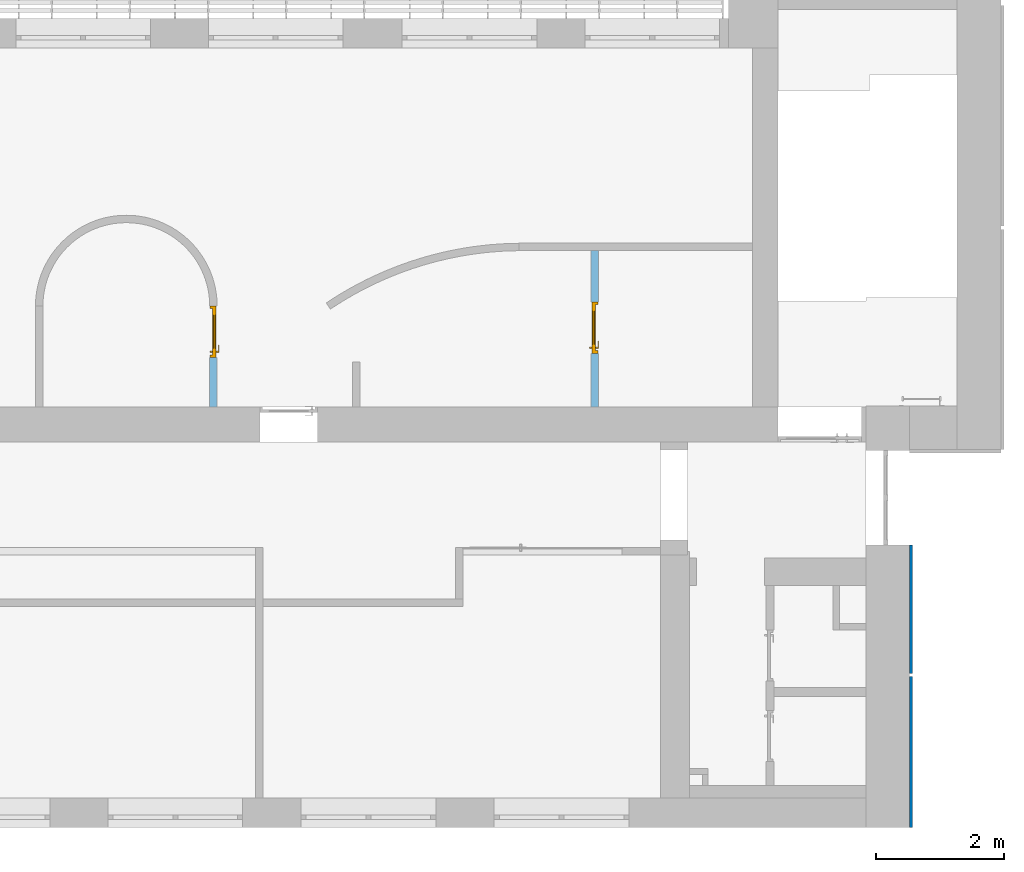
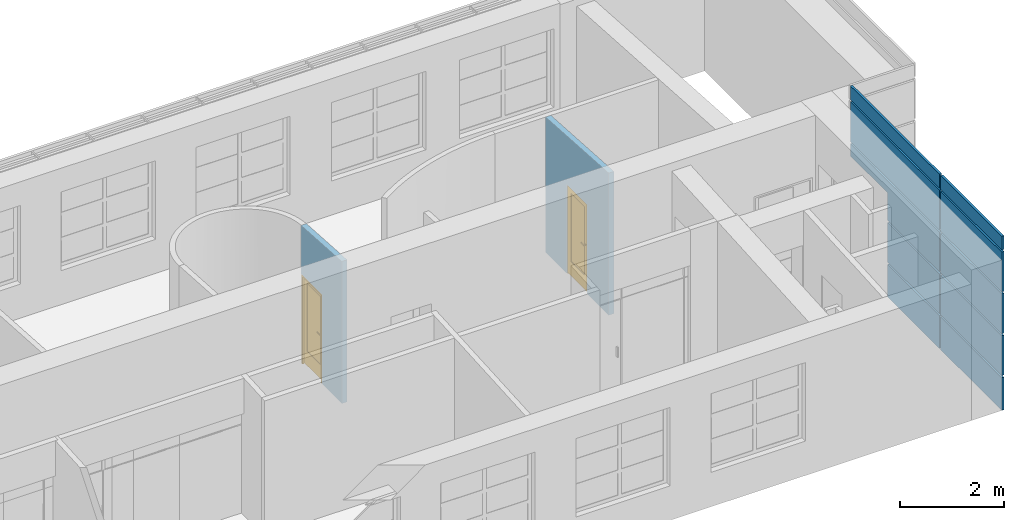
# One storey, part 44 of 46: 2 doors, 1 wall, 2 openings, plus 2 elements that do not belong to this part.
"""IFC2X3 building model written with IfcOpenShell, lengths in millimetres."""

from ifc_helpers import new_model, entity, si_unit, converted_unit, derived_unit, direction, frame, frame_2d, origin, place, context, subcontext, project, spatial, polyline, rectangle, extrude, clip, bounded_halfspace, faceted_brep, source, transform, mapped, material, material_list, layer, layer_set, layer_usage, type_object, type_shapes, element, fill, save


model = new_model("IFC2X3")

# Units and contexts
model_context = context("Model", 3, precision=0.01, world=origin(), true_north=direction((6.12303176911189e-17, 1.0)))
body_context = subcontext(model_context, "Body", "Model", "MODEL_VIEW")
ifc_project = project(units=[si_unit("LENGTHUNIT", "METRE", prefix="MILLI"), si_unit("AREAUNIT", "SQUARE_METRE"), si_unit("VOLUMEUNIT", "CUBIC_METRE"), converted_unit("PLANEANGLEUNIT", "DEGREE", entity("IfcRatioMeasure", 0.0174532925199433), si_unit("PLANEANGLEUNIT", "RADIAN"), dimensions=[0, 0, 0, 0, 0, 0, 0]), si_unit("MASSUNIT", "GRAM", prefix="KILO"), derived_unit("MASSDENSITYUNIT", [(si_unit("MASSUNIT", "GRAM", prefix="KILO"), 1), (si_unit("LENGTHUNIT", "METRE"), -3)]), si_unit("TIMEUNIT", "SECOND"), si_unit("FREQUENCYUNIT", "HERTZ"), si_unit("THERMODYNAMICTEMPERATUREUNIT", "DEGREE_CELSIUS"), derived_unit("THERMALTRANSMITTANCEUNIT", [(si_unit("MASSUNIT", "GRAM", prefix="KILO"), 1), (si_unit("THERMODYNAMICTEMPERATUREUNIT", "KELVIN"), -1), (si_unit("TIMEUNIT", "SECOND"), -3)]), derived_unit("VOLUMETRICFLOWRATEUNIT", [(si_unit("LENGTHUNIT", "METRE"), 3), (si_unit("TIMEUNIT", "SECOND"), -1)]), si_unit("ELECTRICCURRENTUNIT", "AMPERE"), si_unit("ELECTRICVOLTAGEUNIT", "VOLT"), si_unit("POWERUNIT", "WATT"), si_unit("FORCEUNIT", "NEWTON", prefix="KILO"), si_unit("ILLUMINANCEUNIT", "LUX"), si_unit("LUMINOUSFLUXUNIT", "LUMEN"), si_unit("LUMINOUSINTENSITYUNIT", "CANDELA"), derived_unit("USERDEFINED", [(si_unit("MASSUNIT", "GRAM", prefix="KILO"), -1), (si_unit("LENGTHUNIT", "METRE"), -2), (si_unit("TIMEUNIT", "SECOND"), 3), (si_unit("LUMINOUSFLUXUNIT", "LUMEN"), 1)]), derived_unit("LINEARVELOCITYUNIT", [(si_unit("LENGTHUNIT", "METRE"), 1), (si_unit("TIMEUNIT", "SECOND"), -1)]), si_unit("PRESSUREUNIT", "PASCAL"), derived_unit("USERDEFINED", [(si_unit("LENGTHUNIT", "METRE"), -2), (si_unit("MASSUNIT", "GRAM", prefix="KILO"), 1), (si_unit("TIMEUNIT", "SECOND"), -2)])], contexts=[model_context])

# Site, building, storey
site_placement = place(None, frame((-151.875543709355, 2715.0, 0.0)))
site = spatial("IfcSite", under=ifc_project, at=site_placement, Name="Surface", CompositionType="ELEMENT")
building_placement = place(site_placement, origin())
building = spatial("IfcBuilding", under=site, at=building_placement, CompositionType="ELEMENT")
storey_placement = place(building_placement, frame((0.0, 0.0, 10060.0)))
storey = spatial("IfcBuildingStorey", under=building, at=storey_placement, Name="4 korrus", CompositionType="ELEMENT", Elevation=10060.0000000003)

# Wall, opening, door
ifc_material_1 = material(Name="__Kips GN13_tava")
ifc_layer_1 = layer(ifc_material_1, 12.5)
ifc_layer_2 = layer(ifc_material_1, 12.5)
ifc_material_2 = material(Name="__Soojustus EPS")
ifc_layer_3 = layer(ifc_material_2, 66.0)
ifc_layer_4 = layer(ifc_material_1, 12.5)
ifc_layer_5 = layer(ifc_material_1, 12.5)
ifc_layer_set = layer_set([ifc_layer_1, ifc_layer_2, ifc_layer_3, ifc_layer_4, ifc_layer_5], Name="Basic Wall:SS-3_Kipssein tava ruumide vahel")
ifc_layer_usage_1 = layer_usage(ifc_layer_set, "AXIS2", "NEGATIVE", 58.0)
wall_type_1 = type_object("IfcWallType", Name="Basic Wall:SS-3_Kipssein tava ruumide vahel", PredefinedType="STANDARD", material=ifc_layer_set)
wall_1_placement = place(storey_placement, frame((29515.5931266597, 6560.0, 0.0), z_axis=(0.0, 0.0, 1.0), x_axis=(0.0, 1.0, 0.0)))
wall_1 = element("IfcWallStandardCase", 1, at=wall_1_placement, inside=storey, type_object=wall_type_1, material=ifc_layer_usage_1, Name="Basic Wall:SS-3_Kipssein tava ruumide vahel", ObjectType="Basic Wall:SS-3_Kipssein tava ruumide vahel", context=body_context, shape_type="Clipping", body=[
    clip(extrude(rectangle(XDim=2432.67041819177, YDim=116.0, at=frame_2d((1216.33520909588, 2.34479102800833e-13), x_axis=(-1.0, 0.0))), origin(), (0.0, 0.0, 1.0), 3345.80301513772), bounded_halfspace(frame((0.0, -58.0, 3345.80301513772), z_axis=(0.0638356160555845, 0.0, 0.997960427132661), x_axis=(0.0, 1.0, 0.0)), False, frame((0.0, -58.0, 3345.80301513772)), polyline([(0.0, 0.0), (2432.67041819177, 0.0), (2432.67041819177, 116.0), (0.0, 116.0), (0.0, 0.0)]))),
])
opening_1_placement = place(wall_1_placement, frame((833.456384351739, -58.0, 0.0)))
opening_1 = element("IfcOpeningElement", 2, at=opening_1_placement, cuts=wall_1, Name="Ühepoolsed:SU-01.:1", ObjectType="Opening", context=body_context, shape_type="SweptSolid", body=[
    extrude(rectangle(XDim=2099.99999999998, YDim=800.0, at=frame_2d((1049.99999999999, 400.0), x_axis=(1.0, 0.0))), frame((0.0, 0.0, 0.0), z_axis=(0.0, 1.0, 0.0), x_axis=(0.0, 0.0, 1.0)), (0.0, 0.0, 1.0), 116.0),
])
ifc_material_3 = material(Name="_Alumiiniumprofiil - must")
ifc_material_4 = material(Name="__Uks_hele tamm")
ifc_material_5 = material(Name="Glass")
ifc_material_list_1 = material_list([ifc_material_3, ifc_material_4, ifc_material_5])
ifc_material_list_2 = material_list([ifc_material_3, ifc_material_4, ifc_material_5])
door_style_1 = type_object("IfcDoorStyle", Name="SU-01.", ConstructionType="NOTDEFINED", OperationType="FOLDING_TO_LEFT", ParameterTakesPrecedence=False, Sizeable=False, material=ifc_material_list_2)
shared_shape_1 = source(origin(), body_context, "Body", "Brep", [
    faceted_brep([(100.0, 6.0, 1112.5), (100.0, 44.0, 1112.5), (75.0, 44.0, 1112.5), (75.0, 1.0, 1112.5), (195.0, 1.0, 1112.5), (195.0, 6.0, 1112.5), (100.0, 6.0, 1087.5), (195.0, 6.0, 1087.5), (195.0, 1.0, 1087.5), (75.0, 1.0, 1087.5), (75.0, 44.0, 1087.5), (100.0, 44.0, 1087.5)], [[[0, 1, 2, 3, 4, 5]], [[6, 7, 8, 9, 10, 11]], [[1, 0, 6, 11]], [[2, 1, 11, 10]], [[3, 2, 10, 9]], [[4, 3, 9, 8]], [[5, 4, 8, 7]], [[0, 5, 7, 6]]]),
    faceted_brep([(112.5, 44.0, 1137.5), (112.5, 46.0, 1137.5), (62.5000000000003, 46.0, 1137.5), (62.5000000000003, 44.0, 1137.5), (112.5, 44.0, 1017.5), (62.5000000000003, 44.0, 1017.5), (62.5000000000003, 46.0, 1017.5), (112.5, 46.0, 1017.5)], [[[0, 1, 2, 3]], [[4, 5, 6, 7]], [[1, 0, 4, 7]], [[2, 1, 7, 6]], [[3, 2, 6, 5]], [[0, 3, 5, 4]]]),
    faceted_brep([(100.0, 136.0, 1112.5), (195.0, 136.0, 1112.5), (195.0, 141.0, 1112.5), (75.0, 141.0, 1112.5), (75.0, 98.0, 1112.5), (100.0, 98.0, 1112.5), (100.0, 136.0, 1087.5), (100.0, 98.0, 1087.5), (75.0, 98.0, 1087.5), (75.0, 141.0, 1087.5), (195.0, 141.0, 1087.5), (195.0, 136.0, 1087.5)], [[[0, 1, 2, 3, 4, 5]], [[6, 7, 8, 9, 10, 11]], [[5, 7, 6, 0]], [[4, 8, 7, 5]], [[3, 9, 8, 4]], [[2, 10, 9, 3]], [[1, 11, 10, 2]], [[0, 6, 11, 1]]]),
    faceted_brep([(112.5, 98.0, 1137.5), (62.5000000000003, 98.0, 1137.5), (62.5000000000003, 96.0, 1137.5), (112.5, 96.0, 1137.5), (112.5, 98.0, 1017.5), (112.5, 96.0, 1017.5), (62.5000000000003, 96.0, 1017.5), (62.5000000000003, 98.0, 1017.5)], [[[0, 1, 2, 3]], [[4, 5, 6, 7]], [[3, 5, 4, 0]], [[2, 6, 5, 3]], [[1, 7, 6, 2]], [[0, 4, 7, 1]]]),
    faceted_brep([(800.0, 6.0, 0.0), (760.0, 6.0, 0.0), (760.0, 46.0, 0.0), (775.0, 46.0, 0.0), (775.0, 96.0, 0.0), (800.0, 96.0, 0.0), (800.0, 6.0, 2100.0), (0.0, 6.0, 2100.0), (0.0, 6.0, 0.0), (40.0, 6.0, 0.0), (40.0, 6.0, 2060.0), (760.0, 6.0, 2060.0), (760.0, 46.0, 2060.0), (40.0, 46.0, 2060.0), (40.0, 46.0, 0.0), (25.0, 46.0, 0.0), (25.0, 46.0, 2075.0), (775.0, 46.0, 2075.0), (775.0, 96.0, 2075.0), (25.0, 96.0, 2075.0), (25.0, 96.0, 0.0), (0.0, 96.0, 0.0), (0.0, 96.0, 2100.0), (800.0, 96.0, 2100.0)], [[[0, 1, 2, 3, 4, 5]], [[1, 0, 6, 7, 8, 9, 10, 11]], [[2, 1, 11, 12]], [[3, 2, 12, 13, 14, 15, 16, 17]], [[4, 3, 17, 18]], [[5, 4, 18, 19, 20, 21, 22, 23]], [[0, 5, 23, 6]], [[8, 7, 22, 21]], [[9, 8, 21, 20, 15, 14]], [[10, 9, 14, 13]], [[16, 15, 20, 19]], [[11, 10, 13, 12]], [[17, 16, 19, 18]], [[7, 6, 23, 22]]]),
    faceted_brep([(660.0, 61.0, 350.0), (660.0, 61.0, 1960.0), (140.0, 61.0, 1960.0), (140.0, 61.0, 350.0), (660.0, 81.0, 350.0), (140.0, 81.0, 350.0), (140.0, 81.0, 1960.0), (660.0, 81.0, 1960.0)], [[[0, 1, 2, 3]], [[4, 5, 6, 7]], [[1, 0, 4, 7]], [[2, 1, 7, 6]], [[3, 2, 6, 5]], [[0, 3, 5, 4]]]),
    faceted_brep([(775.0, 46.0, 20.0), (775.0, 46.0, 2075.0), (25.0, 46.0, 2075.0), (25.0, 46.0, 20.0), (140.0, 46.0, 350.0), (140.0, 46.0, 1960.0), (660.0, 46.0, 1960.0), (660.0, 46.0, 350.0), (775.0, 96.0, 20.0), (25.0, 96.0, 20.0), (25.0, 96.0, 2075.0), (775.0, 96.0, 2075.0), (140.0, 96.0, 1960.0), (140.0, 96.0, 350.0), (660.0, 96.0, 350.0), (660.0, 96.0, 1960.0)], [[[0, 1, 2, 3], [4, 5, 6, 7]], [[8, 9, 10, 11], [12, 13, 14, 15]], [[1, 0, 8, 11]], [[2, 1, 11, 10]], [[3, 2, 10, 9]], [[0, 3, 9, 8]], [[12, 5, 4, 13]], [[13, 4, 7, 14]], [[14, 7, 6, 15]], [[5, 12, 15, 6]]]),
])
type_shapes(door_style_1, [shared_shape_1])
door_1_placement = place(opening_1_placement, origin())
door_1 = element("IfcDoor", 3, at=door_1_placement, inside=storey, type_object=door_style_1, material=ifc_material_list_1, Name="Ühepoolsed:SU-01.", ObjectType="SU-01.", OverallHeight=2099.99999999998, OverallWidth=800.0, context=body_context, shape_type="MappedRepresentation", body=[
    mapped(shared_shape_1, transform((0.0, 0.0, 0.0), scale=1.0)),
])
fill(opening_1, door_1)

ifc_layer_usage_2 = layer_usage(ifc_layer_set, "AXIS2", "NEGATIVE", 58.0)
wall_2_placement = place(storey_placement, frame((23573.477581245, 6560.0, 0.0), z_axis=(0.0, 0.0, 1.0), x_axis=(0.0, 1.0, 0.0)))
wall_2 = element("IfcWallStandardCase", 4, at=wall_2_placement, inside=storey, type_object=wall_type_1, material=ifc_layer_usage_2, Name="Basic Wall:SS-3_Kipssein tava ruumide vahel", ObjectType="Basic Wall:SS-3_Kipssein tava ruumide vahel", context=body_context, shape_type="Clipping", body=[
    clip(extrude(rectangle(XDim=1569.00000000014, YDim=116.0, at=frame_2d((784.500000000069, 0.0), x_axis=(-1.0, 0.0))), origin(), (0.0, 0.0, 1.0), 3345.80301513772), bounded_halfspace(frame((0.0, -58.0, 3345.80301513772), z_axis=(0.0638356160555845, 0.0, 0.997960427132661), x_axis=(0.0, 1.0, 0.0)), False, frame((0.0, -58.0, 3345.80301513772)), polyline([(0.0, 0.0), (1569.0, 0.0), (1569.0, 116.0), (0.0, 116.0), (0.0, 0.0)]))),
])
opening_2_placement = place(wall_2_placement, frame((1569.0, 58.0, 0.0)))
opening_2 = element("IfcOpeningElement", 5, at=opening_2_placement, cuts=wall_2, Name="Ühepoolsed:SU-01:1", ObjectType="Opening", context=body_context, shape_type="SweptSolid", body=[
    extrude(rectangle(XDim=2099.99999999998, YDim=800.0, at=frame_2d((1049.99999999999, 400.0), x_axis=(1.0, 0.0))), frame((0.0, 0.0, 0.0), z_axis=(0.0, -1.0, 0.0), x_axis=(0.0, 0.0, 1.0)), (0.0, 0.0, 1.0), 116.0),
])
ifc_material_list_3 = material_list([ifc_material_3, ifc_material_4, ifc_material_5])
ifc_material_list_4 = material_list([ifc_material_3, ifc_material_4, ifc_material_5])
door_style_2 = type_object("IfcDoorStyle", Name="SU-01", ConstructionType="NOTDEFINED", OperationType="FOLDING_TO_LEFT", ParameterTakesPrecedence=False, Sizeable=False, material=ifc_material_list_4)
shared_shape_2 = source(origin(), body_context, "Body", "Brep", [
    faceted_brep([(700.0, 6.0, 1112.5), (605.0, 6.0, 1112.5), (605.0, 1.0, 1112.5), (725.0, 1.0, 1112.5), (725.0, 44.0, 1112.5), (700.0, 44.0, 1112.5), (700.0, 6.0, 1087.5), (700.0, 44.0, 1087.5), (725.0, 44.0, 1087.5), (725.0, 1.0, 1087.5), (605.0, 1.0, 1087.5), (605.0, 6.0, 1087.5)], [[[0, 1, 2, 3, 4, 5]], [[6, 7, 8, 9, 10, 11]], [[5, 7, 6, 0]], [[4, 8, 7, 5]], [[3, 9, 8, 4]], [[2, 10, 9, 3]], [[1, 11, 10, 2]], [[0, 6, 11, 1]]]),
    faceted_brep([(687.500000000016, 44.0, 1137.5), (737.500000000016, 44.0, 1137.5), (737.500000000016, 46.0, 1137.5), (687.500000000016, 46.0, 1137.5), (687.500000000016, 44.0, 1017.5), (687.500000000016, 46.0, 1017.5), (737.500000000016, 46.0, 1017.5), (737.500000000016, 44.0, 1017.5)], [[[0, 1, 2, 3]], [[4, 5, 6, 7]], [[3, 5, 4, 0]], [[2, 6, 5, 3]], [[1, 7, 6, 2]], [[0, 4, 7, 1]]]),
    faceted_brep([(700.0, 136.0, 1112.5), (700.0, 98.0, 1112.5), (725.0, 98.0, 1112.5), (725.0, 141.0, 1112.5), (605.0, 141.0, 1112.5), (605.0, 136.0, 1112.5), (700.0, 136.0, 1087.5), (605.0, 136.0, 1087.5), (605.0, 141.0, 1087.5), (725.0, 141.0, 1087.5), (725.0, 98.0, 1087.5), (700.0, 98.0, 1087.5)], [[[0, 1, 2, 3, 4, 5]], [[6, 7, 8, 9, 10, 11]], [[1, 0, 6, 11]], [[2, 1, 11, 10]], [[3, 2, 10, 9]], [[4, 3, 9, 8]], [[5, 4, 8, 7]], [[0, 5, 7, 6]]]),
    faceted_brep([(687.500000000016, 98.0, 1137.5), (687.500000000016, 96.0, 1137.5), (737.500000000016, 96.0, 1137.5), (737.500000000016, 98.0, 1137.5), (687.500000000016, 98.0, 1017.5), (737.500000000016, 98.0, 1017.5), (737.500000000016, 96.0, 1017.5), (687.500000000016, 96.0, 1017.5)], [[[0, 1, 2, 3]], [[4, 5, 6, 7]], [[1, 0, 4, 7]], [[2, 1, 7, 6]], [[3, 2, 6, 5]], [[0, 3, 5, 4]]]),
    faceted_brep([(0.0, 6.0, 0.0), (0.0, 96.0, 0.0), (25.0, 96.0, 0.0), (25.0, 46.0, 0.0), (40.0, 46.0, 0.0), (40.0, 6.0, 0.0), (40.0, 6.0, 2060.0), (760.0, 6.0, 2060.0), (760.0, 6.0, 0.0), (800.0, 6.0, 0.0), (800.0, 6.0, 2100.0), (0.0, 6.0, 2100.0), (40.0, 46.0, 2060.0), (25.0, 46.0, 2075.0), (775.0, 46.0, 2075.0), (775.0, 46.0, 0.0), (760.0, 46.0, 0.0), (760.0, 46.0, 2060.0), (25.0, 96.0, 2075.0), (0.0, 96.0, 2100.0), (800.0, 96.0, 2100.0), (800.0, 96.0, 0.0), (775.0, 96.0, 0.0), (775.0, 96.0, 2075.0)], [[[0, 1, 2, 3, 4, 5]], [[5, 6, 7, 8, 9, 10, 11, 0]], [[4, 12, 6, 5]], [[3, 13, 14, 15, 16, 17, 12, 4]], [[2, 18, 13, 3]], [[1, 19, 20, 21, 22, 23, 18, 2]], [[0, 11, 19, 1]], [[9, 21, 20, 10]], [[8, 16, 15, 22, 21, 9]], [[7, 17, 16, 8]], [[14, 23, 22, 15]], [[6, 12, 17, 7]], [[13, 18, 23, 14]], [[10, 20, 19, 11]]]),
    faceted_brep([(140.0, 61.0, 350.0), (660.0, 61.0, 350.0), (660.0, 61.0, 1960.0), (140.0, 61.0, 1960.0), (140.0, 81.0, 350.0), (140.0, 81.0, 1960.0), (660.0, 81.0, 1960.0), (660.0, 81.0, 350.0)], [[[0, 1, 2, 3]], [[4, 5, 6, 7]], [[3, 5, 4, 0]], [[2, 6, 5, 3]], [[1, 7, 6, 2]], [[0, 4, 7, 1]]]),
    faceted_brep([(25.0, 46.0, 20.0), (775.0, 46.0, 20.0), (775.0, 46.0, 2075.0), (25.0, 46.0, 2075.0), (660.0, 46.0, 350.0), (140.0, 46.0, 350.0), (140.0, 46.0, 1960.0), (660.0, 46.0, 1960.0), (25.0, 96.0, 20.0), (25.0, 96.0, 2075.0), (775.0, 96.0, 2075.0), (775.0, 96.0, 20.0), (660.0, 96.0, 1960.0), (140.0, 96.0, 1960.0), (140.0, 96.0, 350.0), (660.0, 96.0, 350.0)], [[[0, 1, 2, 3], [4, 5, 6, 7]], [[8, 9, 10, 11], [12, 13, 14, 15]], [[3, 9, 8, 0]], [[2, 10, 9, 3]], [[1, 11, 10, 2]], [[0, 8, 11, 1]], [[12, 15, 4, 7]], [[15, 14, 5, 4]], [[14, 13, 6, 5]], [[7, 6, 13, 12]]]),
])
type_shapes(door_style_2, [shared_shape_2])
door_2_placement = place(opening_2_placement, frame((0.0, 0.0, 0.0), z_axis=(0.0, 0.0, 1.0), x_axis=(-1.0, 0.0, 0.0)))
door_2 = element("IfcDoor", 6, at=door_2_placement, inside=storey, type_object=door_style_2, material=ifc_material_list_3, Name="Ühepoolsed:SU-01", ObjectType="SU-01", OverallHeight=2099.99999999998, OverallWidth=800.0, context=body_context, shape_type="MappedRepresentation", body=[
    mapped(shared_shape_2, transform((0.0, 0.0, 0.0), scale=1.0)),
])
fill(opening_2, door_2)

# Wall
ifc_material_6 = material(Name="Steel/Aluminium")
wall_type_2 = type_object("IfcWallType", Name="fassaad7:fassaad7", PredefinedType="NOTDEFINED", material=ifc_material_6)
wall_3_placement = place(storey_placement, frame((34420.6162682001, 1.0, 0.0), z_axis=(0.0, 0.0, 1.0), x_axis=(0.0, 1.0, 0.0)))
element("IfcWall", 7, at=wall_3_placement, inside=storey, type_object=wall_type_2, material=ifc_material_6, Name="fassaad7:fassaad7", ObjectType="fassaad7:fassaad7", context=body_context, shape_type="Brep", body=[
    faceted_brep([(2405.0, -50.0, 770.115269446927), (2405.0, -50.0, 0.0), (4401.0, -50.0, 0.0), (4401.0, -50.0, 770.115269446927), (2405.0, 0.0, 0.0), (4401.0, 0.0, 0.0), (2405.0, 0.0, 770.115269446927), (4401.0, 0.0, 770.115269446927)], [[[0, 1, 2, 3]], [[1, 4, 5, 2]], [[0, 6, 4, 1]], [[3, 7, 6, 0]], [[2, 5, 7, 3]], [[6, 7, 5, 4]]]),
    faceted_brep([(0.0, 0.0, 1755.11526944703), (2355.0, 0.0, 1755.11526944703), (2355.0, 0.0, 820.115269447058), (0.0, 0.0, 820.115269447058), (2355.0, -50.0, 820.115269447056), (2355.0, -50.0, 1755.11526944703), (0.0, -50.0, 820.115269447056), (0.0, -50.0, 1755.11526944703)], [[[0, 1, 2, 3]], [[4, 2, 1, 5]], [[6, 3, 2, 4]], [[7, 0, 3, 6]], [[5, 1, 0, 7]], [[7, 6, 4, 5]]]),
    faceted_brep([(0.0, -50.0, 0.0), (0.0, 0.0, 0.0), (2355.0, 0.0, 0.0), (2355.0, -50.0, 0.0), (0.0, -50.0, 770.115269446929), (0.0, 0.0, 770.115269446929), (2355.0, -50.0, 770.115269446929), (2355.0, 0.0, 770.115269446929)], [[[0, 1, 2, 3]], [[4, 5, 1, 0]], [[6, 7, 5, 4]], [[3, 2, 7, 6]], [[2, 1, 5, 7]], [[3, 6, 4, 0]]]),
    faceted_brep([(2405.0, -50.0, 2790.11526944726), (2405.0, 0.0, 2790.11526944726), (5840.0, 0.0, 2790.11526944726), (5840.0, -50.0, 2790.11526944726), (2405.0, -50.0, 3725.11526944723), (2405.0, 0.0, 3725.11526944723), (5840.0, 0.0, 3725.11526944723), (5840.0, -50.0, 3725.11526944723)], [[[0, 1, 2, 3]], [[4, 5, 1, 0]], [[3, 2, 6, 7]], [[7, 6, 5, 4]], [[1, 5, 6, 2]], [[0, 3, 7, 4]]]),
    faceted_brep([(0.0, -50.0, 3725.11526944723), (0.0, 0.0, 3725.11526944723), (0.0, 0.0, 2790.11526944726), (0.0, -50.0, 2790.11526944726), (2355.0, -50.0, 2790.11526944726), (2355.0, 0.0, 2790.11526944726), (2355.0, 0.0, 3725.11526944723), (2355.0, -50.0, 3725.11526944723)], [[[0, 1, 2, 3]], [[4, 5, 6, 7]], [[3, 2, 5, 4]], [[7, 6, 1, 0]], [[1, 6, 5, 2]], [[0, 3, 4, 7]]]),
    faceted_brep([(2405.0, -50.0, 1755.11526944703), (2405.0, 0.0, 1755.11526944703), (2405.0, 0.0, 820.115269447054), (2405.0, -50.0, 820.115269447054), (4401.0, 0.0, 820.115269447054), (4401.0, -50.0, 820.115269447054), (4401.0, -50.0, 1755.11526944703), (4401.0, 0.0, 1755.11526944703)], [[[0, 1, 2, 3]], [[3, 2, 4, 5]], [[6, 7, 1, 0]], [[5, 4, 7, 6]], [[2, 1, 7, 4]], [[3, 5, 6, 0]]]),
    faceted_brep([(2355.0, -50.0, 2740.11526944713), (2355.0, 0.0, 2740.11526944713), (0.0, 0.0, 2740.11526944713), (0.0, -50.0, 2740.11526944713), (2355.0, -50.0, 1805.11526944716), (2355.0, 0.0, 1805.11526944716), (0.0, 0.0, 1805.11526944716), (0.0, -50.0, 1805.11526944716)], [[[0, 1, 2, 3]], [[4, 5, 1, 0]], [[3, 2, 6, 7]], [[7, 6, 5, 4]], [[2, 1, 5, 6]], [[3, 7, 4, 0]]]),
    faceted_brep([(2405.0, -50.0, 2740.11526944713), (2405.0, 0.0, 2740.11526944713), (2405.0, 0.0, 1805.11526944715), (2405.0, -50.0, 1805.11526944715), (5840.0, -50.0, 2740.11526944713), (5840.0, 0.0, 2740.11526944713), (5840.0, -50.0, 2450.0), (5840.0, 0.0, 2450.0), (4401.0, 0.0, 1805.11526944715), (4401.0, -50.0, 1805.11526944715), (4401.0, -50.0, 2450.0), (4401.0, 0.0, 2450.0)], [[[0, 1, 2, 3]], [[4, 5, 1, 0]], [[6, 7, 5, 4]], [[3, 2, 8, 9]], [[10, 11, 7, 6]], [[9, 8, 11, 10]], [[2, 1, 5, 7, 11, 8]], [[3, 9, 10, 6, 4, 0]]]),
    faceted_brep([(2355.0, -50.0, 3775.11526944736), (2355.0, 0.0, 3775.11526944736), (2355.0, 0.0, 4100.0), (2355.0, -50.0, 4100.0), (0.0, -50.0, 3775.11526944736), (0.0, 0.0, 3775.11526944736), (0.0, -50.0, 4100.0), (0.0, 0.0, 4100.0)], [[[0, 1, 2, 3]], [[4, 5, 1, 0]], [[6, 7, 5, 4]], [[3, 2, 7, 6]], [[2, 1, 5, 7]], [[3, 6, 4, 0]]]),
    faceted_brep([(2405.0, -50.0, 4100.0), (2405.0, 0.0, 4100.0), (2405.0, 0.0, 3775.11526944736), (2405.0, -50.0, 3775.11526944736), (5840.0, -50.0, 4100.0), (5840.0, 0.0, 4100.0), (5840.0, -50.0, 3775.11526944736), (5840.0, 0.0, 3775.11526944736)], [[[0, 1, 2, 3]], [[4, 5, 1, 0]], [[6, 7, 5, 4]], [[3, 2, 7, 6]], [[2, 1, 5, 7]], [[3, 6, 4, 0]]]),
])

save(model, "model.ifc")
